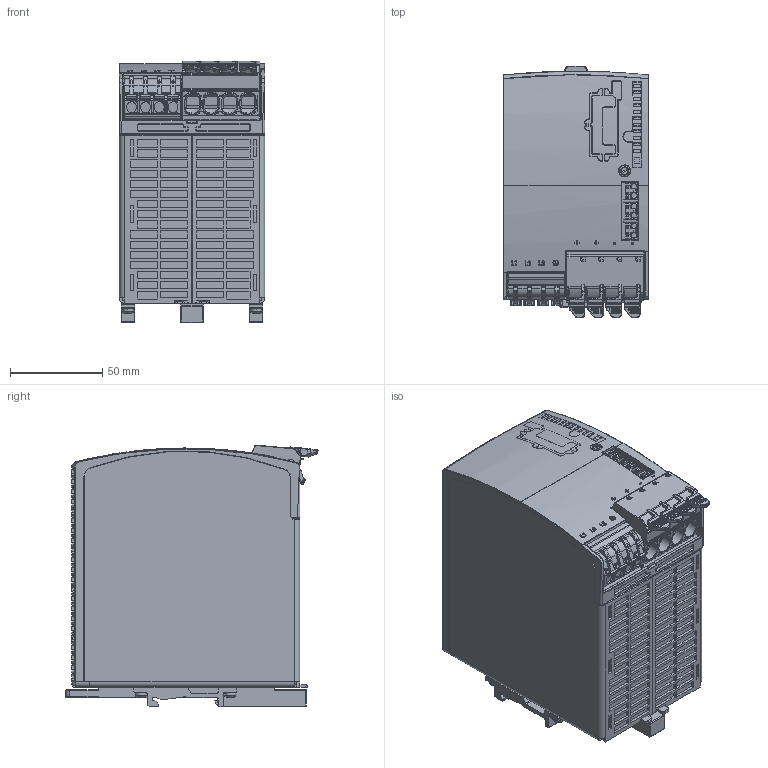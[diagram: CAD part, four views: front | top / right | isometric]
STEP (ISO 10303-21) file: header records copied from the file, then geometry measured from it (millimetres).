
FILE_DESCRIPTION (( 'STEP AP214' ), '1' );
FILE_NAME ('3D_TP960.241.STP', '2026-10-09T08:25:32', ( '' ), ( '' ), 'SwSTEP 2.0', 'SolidWorks 2024', '' );
FILE_SCHEMA (( 'AUTOMOTIVE_DESIGN' ));
Length unit declared in the file: millimetre
Products named in the file (12): 1047239_000_EW-484.881; 1047194_000_Standard; 1047241_000_EW-484.992.00; 1025340_000_Feat_Config; 1025664_000; 1047245_000; 1047240_000; 1025341_000; 1018315_000_BRep_Config; 3D_TP960.241; 1018355_000_Feat_Config; 1041861_000
Assembly tree (14 placements, depth 2):
  3D_TP960.241
    1047241_000_EW-484.992.00
    1047239_000_EW-484.881
    1018355_000_Feat_Config
    1041861_000  x2
    1047240_000
    1025340_000_Feat_Config  x3
    1025341_000
    1047194_000_Standard
    1025664_000
    1018315_000_BRep_Config
    1047245_000
Bounding box: 79 x 136.84 x 142.01 mm (x, y, z)
Volume: 1209964 mm3; surface area: 240208.8 mm2
Topology: 14 solids, 14 shells, 7485 faces, 19823 edges, 12046 vertices
Faces by surface type: bspline 2488, plane 2452, cylinder 1903, sphere 385, torus 222, cone 35
Entity records: 268533 total; most frequent: CARTESIAN_POINT 113387, ORIENTED_EDGE 37532, DIRECTION 24492, EDGE_CURVE 18766, VERTEX_POINT 11438, AXIS2_PLACEMENT_3D 8819, EDGE_LOOP 7452, B_SPLINE_CURVE_WITH_KNOTS 7265
